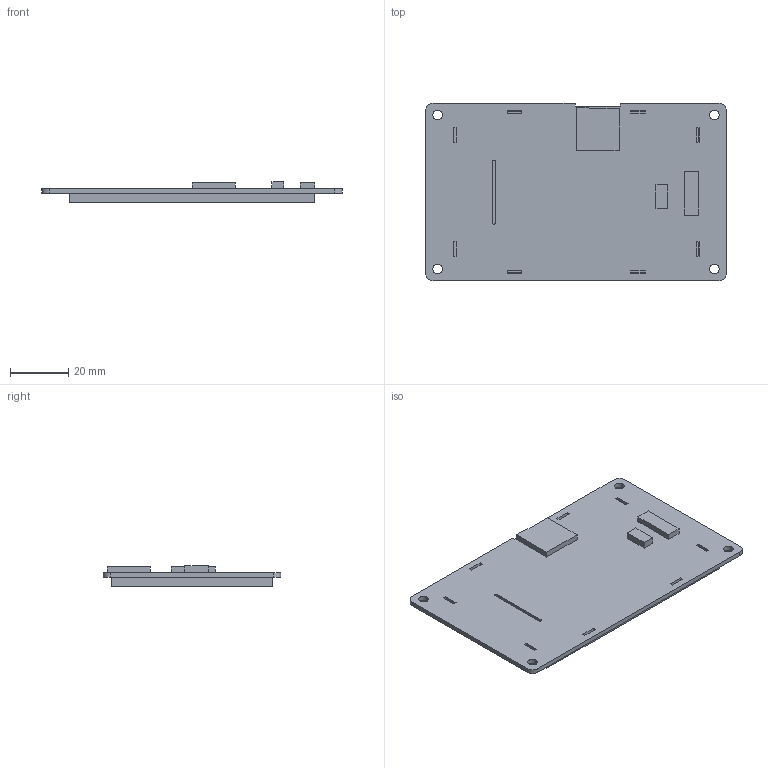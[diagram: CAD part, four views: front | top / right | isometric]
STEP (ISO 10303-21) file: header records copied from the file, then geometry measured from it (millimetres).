
FILE_DESCRIPTION((''),'2;1');
FILE_NAME('3D-DMT48320C035-04WN','2018-12-07T',('Administrator'),(''),'PRO/ENGINEER BY PARAMETRIC TECHNOLOGY CORPORATION, 2011310','PRO/ENGINEER BY PARAMETRIC TECHNOLOGY CORPORATION, 2011310','');
FILE_SCHEMA(('CONFIG_CONTROL_DESIGN','SHAPE_APPEARANCE_LAYERS_GROUPS'));
Length unit declared in the file: millimetre
Products named in the file (1): 3D-DMT48320C035-04WN
Bounding box: 103.25 x 61.09 x 7.2 mm (x, y, z)
Volume: 24003.6 mm3; surface area: 14546.4 mm2
Topology: 1 solids, 1 shells, 94 faces, 296 edges, 206 vertices
Faces by surface type: plane 80, cylinder 14
Entity records: 4055 total; most frequent: CARTESIAN_POINT 564, ORIENTED_EDGE 532, DIRECTION 516, VECTOR 268, LINE 268, EDGE_CURVE 266, VERTEX_POINT 172, PRESENTATION_STYLE_ASSIGNMENT 126
